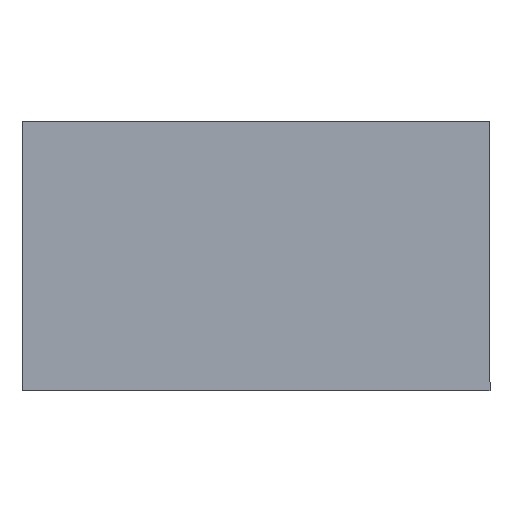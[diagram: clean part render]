
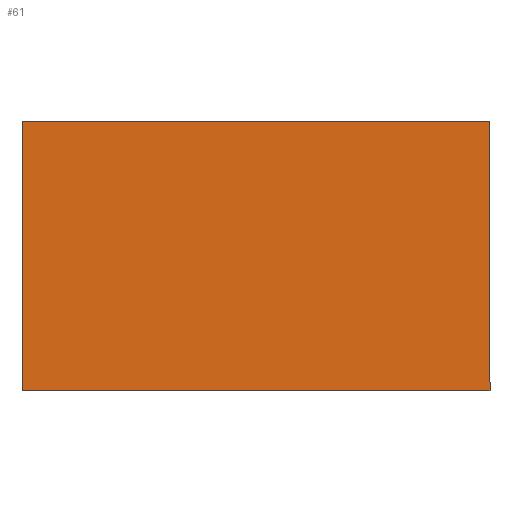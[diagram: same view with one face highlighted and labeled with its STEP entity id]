
A CAD part, top view. The second image highlights one B-rep face of the part: STEP entity #61.
In plain terms, the highlighted planar face has unit normal (0, 0, 1).
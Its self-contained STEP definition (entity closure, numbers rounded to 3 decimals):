
#48 = PLANE ( 'NONE',  #150 ) ;
#49 = CARTESIAN_POINT ( 'NONE',  ( 0.565, 0.325, 0. ) ) ;
#61 = ADVANCED_FACE ( 'NONE', ( #890 ), #48, .F. ) ;
#66 = VERTEX_POINT ( 'NONE', #814 ) ;
#98 = CARTESIAN_POINT ( 'NONE',  ( -0.565, -0.325, 0. ) ) ;
#101 = EDGE_CURVE ( 'NONE', #66, #251, #1010, .T. ) ;
#121 = CARTESIAN_POINT ( 'NONE',  ( 0.565, 0.325, 0. ) ) ;
#145 = LINE ( 'NONE', #423, #399 ) ;
#149 = EDGE_CURVE ( 'NONE', #1070, #990, #515, .T. ) ;
#150 = AXIS2_PLACEMENT_3D ( 'NONE', #382, #217, #556 ) ;
#179 = ORIENTED_EDGE ( 'NONE', *, *, #149, .T. ) ;
#187 = CARTESIAN_POINT ( 'NONE',  ( 0.565, -0.325, 0. ) ) ;
#198 = VECTOR ( 'NONE', #1016, 1000. ) ;
#217 = DIRECTION ( 'NONE',  ( 0., 0., -1. ) ) ;
#251 = VERTEX_POINT ( 'NONE', #49 ) ;
#265 = ORIENTED_EDGE ( 'NONE', *, *, #327, .T. ) ;
#312 = DIRECTION ( 'NONE',  ( 1., 0., 0. ) ) ;
#327 = EDGE_CURVE ( 'NONE', #990, #66, #145, .T. ) ;
#382 = CARTESIAN_POINT ( 'NONE',  ( 0., 0., 0. ) ) ;
#399 = VECTOR ( 'NONE', #312, 1000. ) ;
#413 = VECTOR ( 'NONE', #858, 1000. ) ;
#423 = CARTESIAN_POINT ( 'NONE',  ( 0.565, -0.325, 0. ) ) ;
#434 = DIRECTION ( 'NONE',  ( 0., -1., 0. ) ) ;
#435 = CARTESIAN_POINT ( 'NONE',  ( -0.565, -0.325, 0. ) ) ;
#453 = EDGE_LOOP ( 'NONE', ( #657, #179, #265, #822 ) ) ;
#515 = LINE ( 'NONE', #98, #1040 ) ;
#556 = DIRECTION ( 'NONE',  ( 0., -1., 0. ) ) ;
#657 = ORIENTED_EDGE ( 'NONE', *, *, #1085, .T. ) ;
#697 = CARTESIAN_POINT ( 'NONE',  ( -0.565, 0.325, 0. ) ) ;
#814 = CARTESIAN_POINT ( 'NONE',  ( 0.565, -0.325, 0. ) ) ;
#822 = ORIENTED_EDGE ( 'NONE', *, *, #101, .T. ) ;
#858 = DIRECTION ( 'NONE',  ( -1., 0., 0. ) ) ;
#890 = FACE_OUTER_BOUND ( 'NONE', #453, .T. ) ;
#941 = LINE ( 'NONE', #121, #413 ) ;
#990 = VERTEX_POINT ( 'NONE', #435 ) ;
#1010 = LINE ( 'NONE', #187, #198 ) ;
#1016 = DIRECTION ( 'NONE',  ( 0., 1., 0. ) ) ;
#1040 = VECTOR ( 'NONE', #434, 1000. ) ;
#1070 = VERTEX_POINT ( 'NONE', #697 ) ;
#1085 = EDGE_CURVE ( 'NONE', #251, #1070, #941, .T. ) ;
